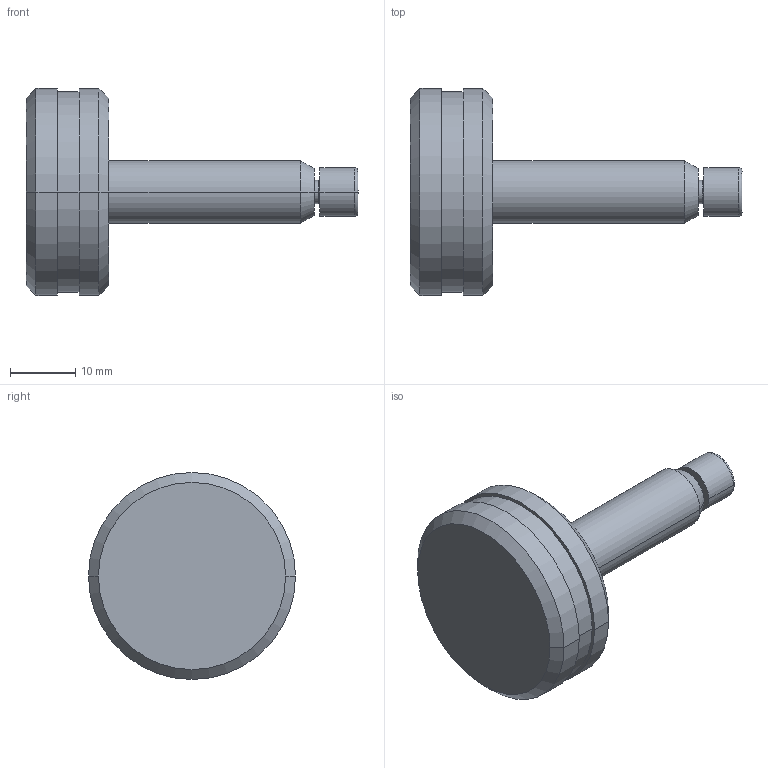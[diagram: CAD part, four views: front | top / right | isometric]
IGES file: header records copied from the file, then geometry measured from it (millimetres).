
Start section:  PTC IGES file: sch340-part.igs
Global section: file name: sch340-part.igs; native system: Pro/ENGINEER by Parametric Technology Corporation; preprocessor: 2002350; author: chant; organization: Unknown; date: 070529.162603; units: inch
Bounding box: 50.9 x 31.75 x 31.75 mm (x, y, z)
Surface area: 3976.7 mm2 (no closed solid volume)
Topology: 0 solids, 0 shells, 33 faces, 172 edges, 194 vertices
Faces by surface type: revolution 26, bspline 7
